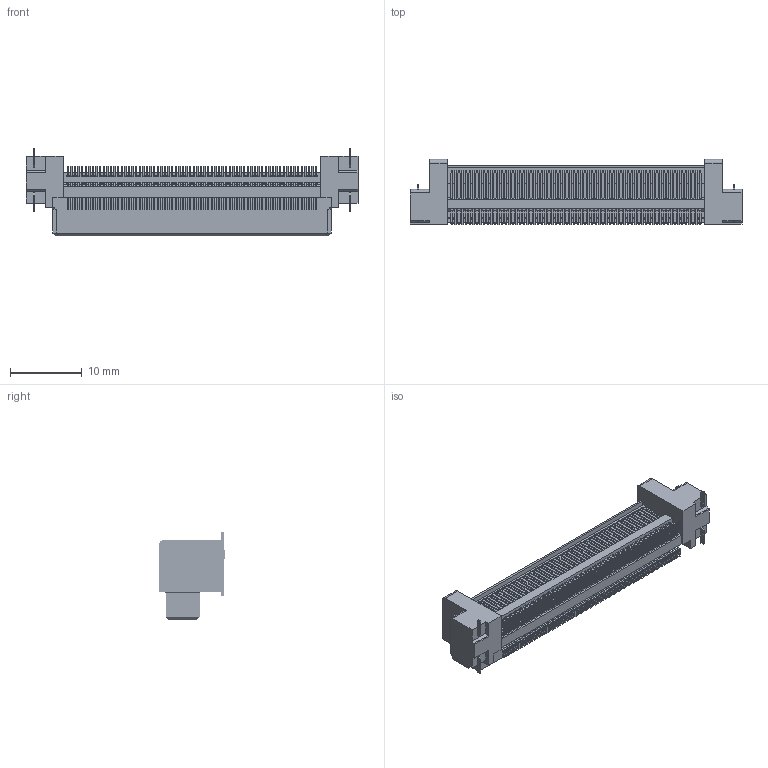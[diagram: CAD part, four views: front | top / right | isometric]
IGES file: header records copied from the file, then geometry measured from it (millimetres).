
Start section: Elysium IGES Interface
Global section: file name: 54HC:\Users\1314\Desktop\temp\回覧用-一時的\DT10-140L.igs; native system: CoCreate Modeling 17.0B  09-Oct-2010; preprocessor: CoCreate IGES_3D V2.2; author: Unknown; organization: Unknown; date: 20170519.132258; units: millimetre
Bounding box: 46.12 x 9.05 x 12.2 mm (x, y, z)
Volume: 1884.2 mm3; surface area: 2904.3 mm2
Topology: 1 solids, 1 shells, 8154 faces, 22883 edges, 14872 vertices
Faces by surface type: bspline 8154
